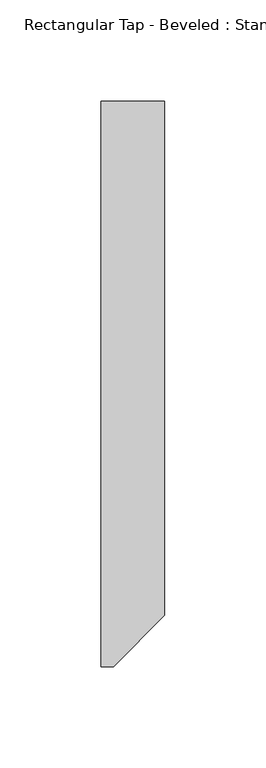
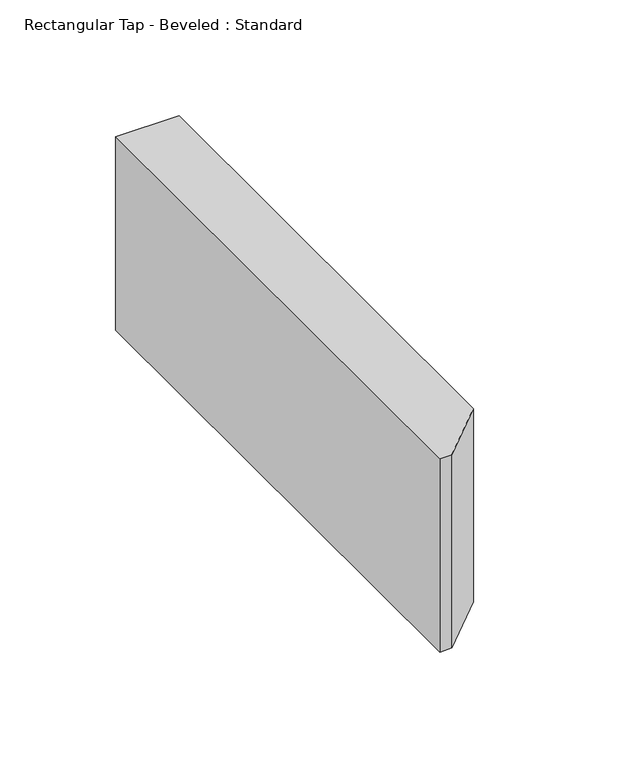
"""IFC4 building model written with IfcOpenShell, lengths in millimetres: duct fitting geometry, Rectangular Tap - Beveled : Standard."""

from ifc_helpers import new_model, si_unit, frame, origin, place, context, project, spatial, polyline, outline, extrude, source, transform, mapped, element, save


def rectangular_tap_beveled_standard_694a58d9(model_context):
    return source(origin(), model_context, "Body", "SweptSolid", [
        extrude(outline(polyline([(25.4, 127.0), (25.4, -127.0), (0.0, -152.4), (-6.096, -152.4), (-6.096, 127.0), (25.4, 127.0)])), frame((0.0, 0.0, -50.8), z_axis=(0.0, 0.0, 1.0), x_axis=(1.0, 0.0, 0.0)), (0.0, 0.0, 1.0), 101.6),
    ])


if __name__ == "__main__":
    model = new_model("IFC4")
    model_context = context("Model", 3, world=origin())
    ifc_project = project(units=[si_unit("LENGTHUNIT", "METRE", prefix="MILLI")], contexts=[model_context])
    site = spatial("IfcSite", under=ifc_project)
    building = spatial("IfcBuilding", under=site)
    placement = place(None, origin())
    rectangular_tap_beveled_standard_shape = rectangular_tap_beveled_standard_694a58d9(model_context)
    element("IfcDuctFitting", 1, ObjectType="Rectangular Tap - Beveled : Standard", at=placement, inside=building, context=model_context, shape_type="MappedRepresentation", body=[
        mapped(rectangular_tap_beveled_standard_shape, transform((0.0, 0.0, 0.0), x_axis=(1.0, 0.0, 0.0), y_axis=(0.0, 1.0, 0.0), z_axis=(0.0, 0.0, 1.0))),
    ])
    save(model, "model.ifc")
